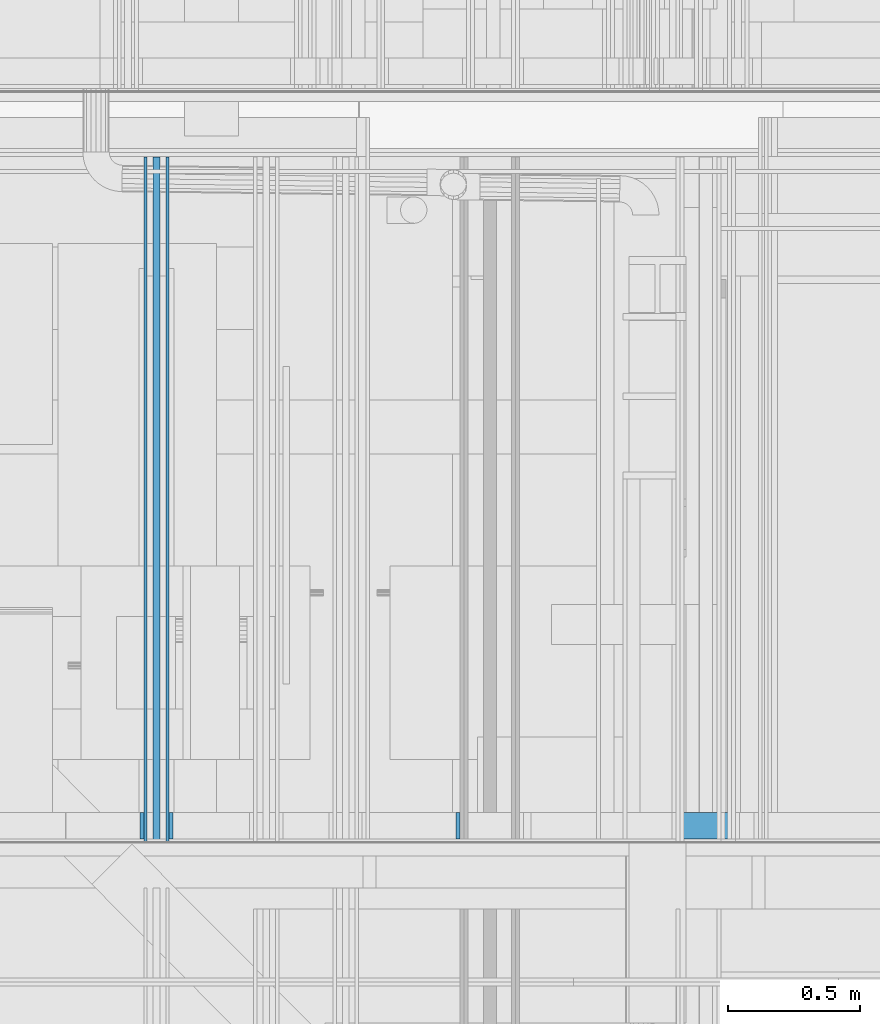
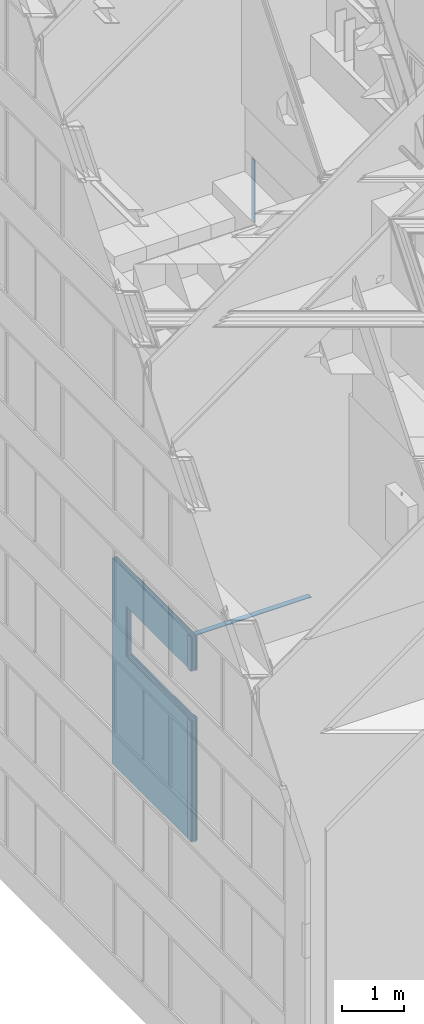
# One storey, part 86 of 583: 7 building element parts, 3 openings, 3 elements without a shape of their own.
"""IFC2X3 building model written with IfcOpenShell, lengths in metres."""

from ifc_helpers import new_model, entity, si_unit, converted_unit, derived_unit, money_unit, direction, frame, frame_2d, origin_with_axes, place, context, subcontext, project, spatial, polyline, rectangle, outline, extrude, material, type_object, element, aggregate, save


model = new_model("IFC2X3")

# Units and contexts
model_context = context("Model", 3, precision=1e-05, world=origin_with_axes(), true_north=direction((0.0, 1.0)))
body_context = subcontext(model_context, "Body", "Model", "MODEL_VIEW", scale=1.0)
ifc_project = project(units=[si_unit("LENGTHUNIT", "METRE"), si_unit("AREAUNIT", "SQUARE_METRE"), si_unit("VOLUMEUNIT", "CUBIC_METRE"), si_unit("ABSORBEDDOSEUNIT", "GRAY"), si_unit("AMOUNTOFSUBSTANCEUNIT", "MOLE"), si_unit("DOSEEQUIVALENTUNIT", "SIEVERT"), si_unit("ELECTRICCAPACITANCEUNIT", "FARAD"), si_unit("ELECTRICCHARGEUNIT", "COULOMB"), si_unit("ELECTRICCONDUCTANCEUNIT", "SIEMENS"), si_unit("ELECTRICCURRENTUNIT", "AMPERE"), si_unit("ELECTRICRESISTANCEUNIT", "OHM"), si_unit("ELECTRICVOLTAGEUNIT", "VOLT"), si_unit("ENERGYUNIT", "JOULE"), si_unit("FORCEUNIT", "NEWTON"), si_unit("FREQUENCYUNIT", "HERTZ"), si_unit("ILLUMINANCEUNIT", "LUX"), si_unit("INDUCTANCEUNIT", "HENRY"), si_unit("LUMINOUSFLUXUNIT", "LUMEN"), si_unit("LUMINOUSINTENSITYUNIT", "CANDELA"), si_unit("MAGNETICFLUXDENSITYUNIT", "TESLA"), si_unit("MAGNETICFLUXUNIT", "WEBER"), si_unit("MASSUNIT", "GRAM"), converted_unit("PLANEANGLEUNIT", "degree", entity("IfcReal", 0.0174532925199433), si_unit("PLANEANGLEUNIT", "RADIAN"), dimensions=[0, 0, 0, 0, 0, 0, 0]), si_unit("POWERUNIT", "WATT"), si_unit("PRESSUREUNIT", "PASCAL"), si_unit("RADIOACTIVITYUNIT", "BECQUEREL"), si_unit("SOLIDANGLEUNIT", "STERADIAN"), si_unit("THERMODYNAMICTEMPERATUREUNIT", "KELVIN"), si_unit("TIMEUNIT", "SECOND"), derived_unit("ACCELERATIONUNIT", [(si_unit("LENGTHUNIT", "METRE"), 1), (si_unit("TIMEUNIT", "SECOND"), -2)]), derived_unit("ANGULARVELOCITYUNIT", [(converted_unit("PLANEANGLEUNIT", "degree", entity("IfcReal", 0.0174532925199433), si_unit("PLANEANGLEUNIT", "RADIAN"), dimensions=[0, 0, 0, 0, 0, 0, 0]), 1), (si_unit("TIMEUNIT", "SECOND"), -1)]), derived_unit("CURVATUREUNIT", [(converted_unit("PLANEANGLEUNIT", "degree", entity("IfcReal", 0.0174532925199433), si_unit("PLANEANGLEUNIT", "RADIAN"), dimensions=[0, 0, 0, 0, 0, 0, 0]), 1), (si_unit("LENGTHUNIT", "METRE"), -1)]), derived_unit("DYNAMICVISCOSITYUNIT", [(si_unit("PRESSUREUNIT", "PASCAL"), 1), (si_unit("TIMEUNIT", "SECOND"), 1)]), derived_unit("HEATFLUXDENSITYUNIT", [(si_unit("POWERUNIT", "WATT"), 1), (si_unit("LENGTHUNIT", "METRE"), -2)]), derived_unit("HEATINGVALUEUNIT", [(si_unit("ENERGYUNIT", "JOULE"), 1), (si_unit("MASSUNIT", "GRAM"), -1)]), derived_unit("INTEGERCOUNTRATEUNIT", [(si_unit("TIMEUNIT", "SECOND"), -1)]), derived_unit("IONCONCENTRATIONUNIT", [(si_unit("MASSUNIT", "GRAM"), 1), (si_unit("VOLUMEUNIT", "CUBIC_METRE"), -1)]), derived_unit("ISOTHERMALMOISTURECAPACITYUNIT", [(si_unit("VOLUMEUNIT", "CUBIC_METRE"), 1), (si_unit("MASSUNIT", "GRAM"), -1)]), derived_unit("KINEMATICVISCOSITYUNIT", [(si_unit("AREAUNIT", "SQUARE_METRE"), 1), (si_unit("TIMEUNIT", "SECOND"), -1)]), derived_unit("LINEARFORCEUNIT", [(si_unit("FORCEUNIT", "NEWTON"), 1), (si_unit("LENGTHUNIT", "METRE"), -1)]), derived_unit("LINEARMOMENTUNIT", [(si_unit("FORCEUNIT", "NEWTON"), 1), (si_unit("LENGTHUNIT", "METRE"), -1)]), derived_unit("LINEARSTIFFNESSUNIT", [(si_unit("FORCEUNIT", "NEWTON"), 1), (si_unit("LENGTHUNIT", "METRE"), -1)]), derived_unit("LINEARVELOCITYUNIT", [(si_unit("LENGTHUNIT", "METRE"), 1), (si_unit("TIMEUNIT", "SECOND"), -1)]), derived_unit("LUMINOUSINTENSITYDISTRIBUTIONUNIT", [(si_unit("LUMINOUSINTENSITYUNIT", "CANDELA"), 1), (si_unit("LUMINOUSFLUXUNIT", "LUMEN"), -1)]), derived_unit("MASSDENSITYUNIT", [(si_unit("MASSUNIT", "GRAM"), 1), (si_unit("VOLUMEUNIT", "CUBIC_METRE"), -1)]), derived_unit("MASSFLOWRATEUNIT", [(si_unit("MASSUNIT", "GRAM"), 1), (si_unit("TIMEUNIT", "SECOND"), -1)]), derived_unit("MASSPERLENGTHUNIT", [(si_unit("MASSUNIT", "GRAM"), 1), (si_unit("LENGTHUNIT", "METRE"), -1)]), derived_unit("MODULUSOFELASTICITYUNIT", [(si_unit("FORCEUNIT", "NEWTON"), 1), (si_unit("AREAUNIT", "SQUARE_METRE"), -1)]), derived_unit("MODULUSOFLINEARSUBGRADEREACTIONUNIT", [(si_unit("FORCEUNIT", "NEWTON"), 1), (si_unit("LENGTHUNIT", "METRE"), -2)]), derived_unit("MODULUSOFROTATIONALSUBGRADEREACTIONUNIT", [(si_unit("FORCEUNIT", "NEWTON"), 1), (si_unit("LENGTHUNIT", "METRE"), 1)]), derived_unit("MODULUSOFSUBGRADEREACTIONUNIT", [(si_unit("FORCEUNIT", "NEWTON"), 1), (si_unit("VOLUMEUNIT", "CUBIC_METRE"), -1)]), derived_unit("MOISTUREDIFFUSIVITYUNIT", [(si_unit("VOLUMEUNIT", "CUBIC_METRE"), 1), (si_unit("TIMEUNIT", "SECOND"), -1)]), derived_unit("MOLECULARWEIGHTUNIT", [(si_unit("MASSUNIT", "GRAM"), 1), (si_unit("AMOUNTOFSUBSTANCEUNIT", "MOLE"), -1)]), derived_unit("PLANARFORCEUNIT", [(si_unit("FORCEUNIT", "NEWTON"), 1), (si_unit("LENGTHUNIT", "METRE"), -2)]), derived_unit("ROTATIONALFREQUENCYUNIT", [(si_unit("TIMEUNIT", "SECOND"), -1)]), derived_unit("ROTATIONALMASSUNIT", [(si_unit("MASSUNIT", "GRAM"), 1), (si_unit("LENGTHUNIT", "METRE"), 2)]), derived_unit("ROTATIONALSTIFFNESSUNIT", [(si_unit("FORCEUNIT", "NEWTON"), 1), (si_unit("LENGTHUNIT", "METRE"), 1), (converted_unit("PLANEANGLEUNIT", "degree", entity("IfcReal", 0.0174532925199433), si_unit("PLANEANGLEUNIT", "RADIAN"), dimensions=[0, 0, 0, 0, 0, 0, 0]), -1)]), derived_unit("SECTIONAREAINTEGRALUNIT", [(si_unit("LENGTHUNIT", "METRE"), 5)]), derived_unit("SECTIONMODULUSUNIT", [(si_unit("LENGTHUNIT", "METRE"), 3)]), derived_unit("SHEARMODULUSUNIT", [(si_unit("FORCEUNIT", "NEWTON"), 1), (si_unit("AREAUNIT", "SQUARE_METRE"), -1)]), derived_unit("SOUNDPOWERUNIT", [(si_unit("ENERGYUNIT", "JOULE"), 1), (si_unit("TIMEUNIT", "SECOND"), -1)]), derived_unit("SPECIFICHEATCAPACITYUNIT", [(si_unit("FORCEUNIT", "NEWTON"), 1), (si_unit("MASSUNIT", "GRAM"), -1), (si_unit("THERMODYNAMICTEMPERATUREUNIT", "KELVIN"), -1)]), derived_unit("TEMPERATUREGRADIENTUNIT", [(si_unit("THERMODYNAMICTEMPERATUREUNIT", "KELVIN"), 1), (si_unit("LENGTHUNIT", "METRE"), -1)]), derived_unit("THERMALADMITTANCEUNIT", [(si_unit("POWERUNIT", "WATT"), 1), (si_unit("AREAUNIT", "SQUARE_METRE"), -1), (si_unit("THERMODYNAMICTEMPERATUREUNIT", "KELVIN"), -1)]), derived_unit("THERMALCONDUCTANCEUNIT", [(si_unit("POWERUNIT", "WATT"), 1), (si_unit("LENGTHUNIT", "METRE"), -1), (si_unit("THERMODYNAMICTEMPERATUREUNIT", "KELVIN"), -1)]), derived_unit("THERMALEXPANSIONCOEFFICIENTUNIT", [(si_unit("THERMODYNAMICTEMPERATUREUNIT", "KELVIN"), -1)]), derived_unit("THERMALRESISTANCEUNIT", [(si_unit("AREAUNIT", "SQUARE_METRE"), 1), (si_unit("POWERUNIT", "WATT"), -1)]), derived_unit("THERMALTRANSMITTANCEUNIT", [(si_unit("POWERUNIT", "WATT"), 1), (si_unit("AREAUNIT", "SQUARE_METRE"), -1), (si_unit("THERMODYNAMICTEMPERATUREUNIT", "KELVIN"), -1)]), derived_unit("TORQUEUNIT", [(si_unit("FORCEUNIT", "NEWTON"), 1), (si_unit("LENGTHUNIT", "METRE"), 1)]), derived_unit("VAPORPERMEABILITYUNIT", [(si_unit("MASSUNIT", "GRAM"), 1), (si_unit("TIMEUNIT", "SECOND"), -1)]), derived_unit("VOLUMETRICFLOWRATEUNIT", [(si_unit("VOLUMEUNIT", "CUBIC_METRE"), 1), (si_unit("TIMEUNIT", "SECOND"), -1)]), derived_unit("WARPINGCONSTANTUNIT", [(si_unit("LENGTHUNIT", "METRE"), 6)]), derived_unit("WARPINGMOMENTUNIT", [(si_unit("FORCEUNIT", "NEWTON"), 1), (si_unit("LENGTHUNIT", "METRE"), 2)]), money_unit("GBP")], contexts=[model_context])

# Site, building, storey
site_placement = place(None, origin_with_axes())
site = spatial("IfcSite", under=ifc_project, at=site_placement, Name="Site", CompositionType="ELEMENT")
building_placement = place(site_placement, origin_with_axes())
building = spatial("IfcBuilding", under=site, at=building_placement, Name="Building01", CompositionType="ELEMENT")
storey_placement = place(building_placement, frame((0.0, 0.0, 20.78), z_axis=(0.0, 0.0, 1.0), x_axis=(1.0, 0.0, 0.0)))
storey = spatial("IfcBuildingStorey", under=building, at=storey_placement, Name="RL", CompositionType="ELEMENT", Elevation=20.78)

# Wall, building element part
wall_type_1 = type_object("IfcWallType", Name="SHE_A-Walls_Type01c_Partywall_225mm_twin_tall", PredefinedType="NOTDEFINED")
wall_1_placement = place(storey_placement, frame((4.302428, 12.13, -8.492), z_axis=(0.0, 1.0, 0.0), x_axis=(0.0, 0.0, 1.0)))
wall_1 = element("IfcWall", 1, at=wall_1_placement, inside=storey, type_object=wall_type_1, Name="1C", ObjectType="SHE_A-Walls_Type01c_Partywall_225mm_twin_tall")
ifc_material_1 = material(Name="A_BSUK_Walls_Timber")
building_element_part_1_placement = place(wall_1_placement, origin_with_axes())
building_element_part_1 = element("IfcBuildingElementPart", 2, at=building_element_part_1_placement, material=ifc_material_1, Name="7", context=body_context, shape_type="SweptSolid", body=[
    extrude(rectangle(XDim=1.2375, YDim=0.015, at=frame_2d((0.46575, -0.1455), x_axis=(-1.0, 0.0))), frame((0.0, 0.0, 0.015), z_axis=(0.0, 0.0, 1.0), x_axis=(1.0, 0.0, 0.0)), (0.0, 0.0, 1.0), 0.1),
])
aggregate(wall_1, [building_element_part_1])

wall_2_placement = place(storey_placement, frame((0.306, 12.13, -16.258), z_axis=(0.0, 1.0, 0.0), x_axis=(1.0, 0.0, 0.0)))
wall_2 = element("IfcWall", 3, at=wall_2_placement, inside=storey, type_object=wall_type_1, Name="1C", ObjectType="SHE_A-Walls_Type01c_Partywall_225mm_twin_tall")
building_element_part_2_placement = place(wall_2_placement, origin_with_axes())
building_element_part_2 = element("IfcBuildingElementPart", 4, at=building_element_part_2_placement, material=ifc_material_1, Name="8", context=body_context, shape_type="SweptSolid", body=[
    extrude(outline(polyline([(4.914, 0.152), (2.759286, 0.152), (2.759286, 0.137), (4.899, 0.137), (4.914, 0.152)])), frame((0.0, 0.0, 0.015), z_axis=(0.0, 0.0, 1.0), x_axis=(1.0, 0.0, 0.0)), (0.0, 0.0, 1.0), 0.1),
])
aggregate(wall_2, [building_element_part_2])

# Wall, openings, building element parts
wall_type_2 = type_object("IfcWallType", Name="SHE_A-Walls_Type05a_Partition_95mm_tall", PredefinedType="NOTDEFINED")
wall_3_placement = place(storey_placement, frame((3.030286, 12.13, -20.462), z_axis=(0.0, 1.0, 0.0), x_axis=(0.0, 0.0, 1.0)))
wall_3 = element("IfcWall", 5, at=wall_3_placement, inside=storey, type_object=wall_type_2, Name="5A", ObjectType="SHE_A-Walls_Type05a_Partition_95mm_tall")
opening_1_placement = place(wall_3_placement, frame((2.433, 0.229, -0.03), z_axis=(0.0, 0.0, 1.0), x_axis=(1.0, 0.0, 0.0)))
element("IfcOpeningElement", 6, at=opening_1_placement, cuts=wall_3, Name="Opening", ObjectType="Opening", context=body_context, shape_type="SweptSolid", body=[
    extrude(rectangle(XDim=0.942, YDim=2.142, at=frame_2d((-0.471, 1.071), x_axis=(1.0, 0.0))), frame((0.0, -0.381, 0.0), z_axis=(0.0, 1.0, 0.0), x_axis=(-1.0, 0.0, 0.0)), (0.0, 0.0, 1.0), 0.762),
])
opening_2_placement = place(wall_3_placement, frame((2.433, 0.069, -0.015), z_axis=(0.0, 0.0, 1.0), x_axis=(1.0, 0.0, 0.0)))
element("IfcOpeningElement", 7, at=opening_2_placement, cuts=wall_3, Name="Opening", ObjectType="Opening", context=body_context, shape_type="SweptSolid", body=[
    extrude(rectangle(XDim=0.9, YDim=2.142, at=frame_2d((0.45, 1.071), x_axis=(-1.0, 0.0))), frame((0.0, 0.141, 0.0), z_axis=(0.0, -1.0, 0.0), x_axis=(1.0, 0.0, 0.0)), (0.0, 0.0, 1.0), 0.282),
])
opening_3_placement = place(wall_3_placement, frame((2.391, -0.06, 0.0), z_axis=(0.0, 0.0, 1.0), x_axis=(1.0, 0.0, 0.0)))
element("IfcOpeningElement", 8, at=opening_3_placement, cuts=wall_3, Name="Opening", ObjectType="Opening", context=body_context, shape_type="SweptSolid", body=[
    extrude(rectangle(XDim=2.142, YDim=0.984, at=frame_2d((0.492, 1.071), x_axis=(0.0, -1.0))), frame((0.0, 0.09, 0.0), z_axis=(0.0, -1.0, 0.0), x_axis=(1.0, 0.0, 0.0)), (0.0, 0.0, 1.0), 0.18),
])
ifc_material_2 = material(Name="A_BSUK_Insulation")
placement = place(wall_3_placement, origin_with_axes())
building_element_part_3 = element("IfcBuildingElementPart", 9, at=placement, material=ifc_material_2, Name="1", context=body_context, shape_type="SweptSolid", body=[
    extrude(rectangle(XDim=4.067, YDim=0.025, at=frame_2d((2.0335, -0.0125), x_axis=(-1.0, 0.0))), origin_with_axes(), (0.0, 0.0, 1.0), 2.59),
])
building_element_part_4 = element("IfcBuildingElementPart", 10, at=placement, material=ifc_material_1, Name="2", context=body_context, shape_type="SweptSolid", body=[
    extrude(rectangle(XDim=4.037, YDim=0.015, at=frame_2d((2.0335, -0.0675), x_axis=(-1.0, 0.0))), frame((0.0, 0.0, 0.015), z_axis=(0.0, 0.0, 1.0), x_axis=(1.0, 0.0, 0.0)), (0.0, 0.0, 1.0), 0.1),
])
building_element_part_5 = element("IfcBuildingElementPart", 11, at=placement, material=ifc_material_1, Name="3", context=body_context, shape_type="SweptSolid", body=[
    extrude(rectangle(XDim=4.037, YDim=0.015, at=frame_2d((2.0335, 0.0425), x_axis=(-1.0, 0.0))), frame((0.0, 0.0, 0.015), z_axis=(0.0, 0.0, 1.0), x_axis=(1.0, 0.0, 0.0)), (0.0, 0.0, 1.0), 0.1),
])
ifc_material_3 = material(Name="A_BSUK_WallInternal_Finishes_Plasterboard")
building_element_part_6 = element("IfcBuildingElementPart", 12, at=placement, material=ifc_material_3, Name="4", context=body_context, shape_type="SweptSolid", body=[
    extrude(rectangle(XDim=4.067, YDim=0.012, at=frame_2d((2.0335, -0.054), x_axis=(-1.0, 0.0))), origin_with_axes(), (0.0, 0.0, 1.0), 2.59),
])
building_element_part_7 = element("IfcBuildingElementPart", 13, at=placement, material=ifc_material_3, Name="5", context=body_context, shape_type="SweptSolid", body=[
    extrude(rectangle(XDim=4.067, YDim=0.012, at=frame_2d((2.0335, 0.029), x_axis=(-1.0, 0.0))), origin_with_axes(), (0.0, 0.0, 1.0), 2.59),
])
aggregate(wall_3, [building_element_part_3, building_element_part_4, building_element_part_5, building_element_part_6, building_element_part_7])

save(model, "model.ifc")
